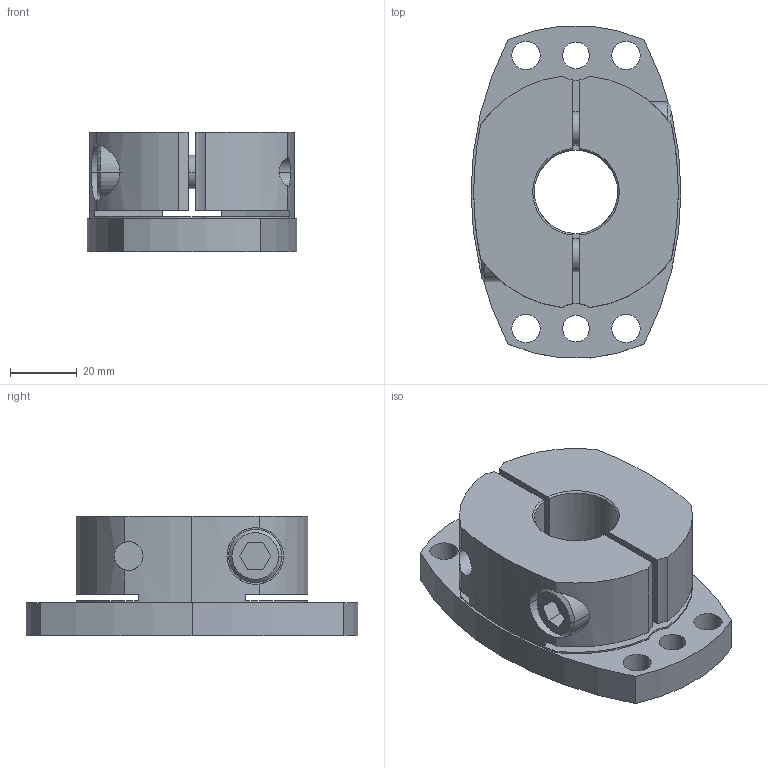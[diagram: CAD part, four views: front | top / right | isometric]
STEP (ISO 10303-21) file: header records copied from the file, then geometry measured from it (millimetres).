
FILE_DESCRIPTION((''),'2;1');
FILE_NAME('SHDB-100B-25.stp','2026-01-28T08:39:20',(''),(''),'AutoCAD STEP 2000i','AutoCAD 2000i',', , ');
FILE_SCHEMA(('CONFIG_CONTROL_DESIGN'));
Length unit declared in the file: millimetre
Products named in the file (2): SHDB-100B-20; 忣兜1
Assembly tree (1 placements, depth 2):
  SHDB-100B-20
    忣兜1
Bounding box: 63 x 99.64 x 36 mm (x, y, z)
Volume: 117384.9 mm3; surface area: 30574.6 mm2
Topology: 1 solids, 1 shells, 102 faces, 280 edges, 184 vertices
Faces by surface type: cylinder 58, plane 34, cone 10
Entity records: 3723 total; most frequent: CARTESIAN_POINT 896, DIRECTION 602, ORIENTED_EDGE 560, EDGE_CURVE 280, AXIS2_PLACEMENT_3D 238, VERTEX_POINT 184, CIRCLE 134, VECTOR 126
